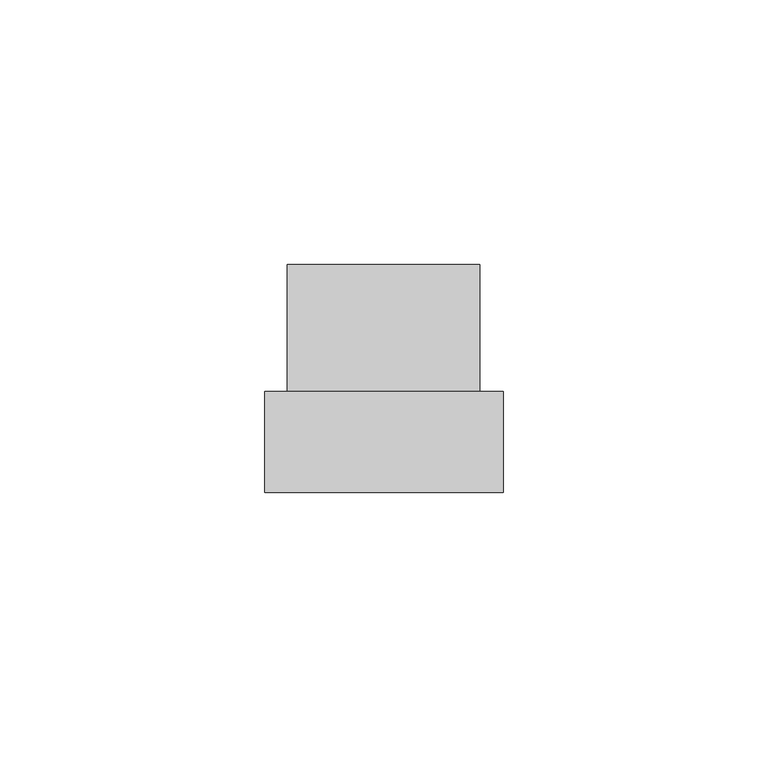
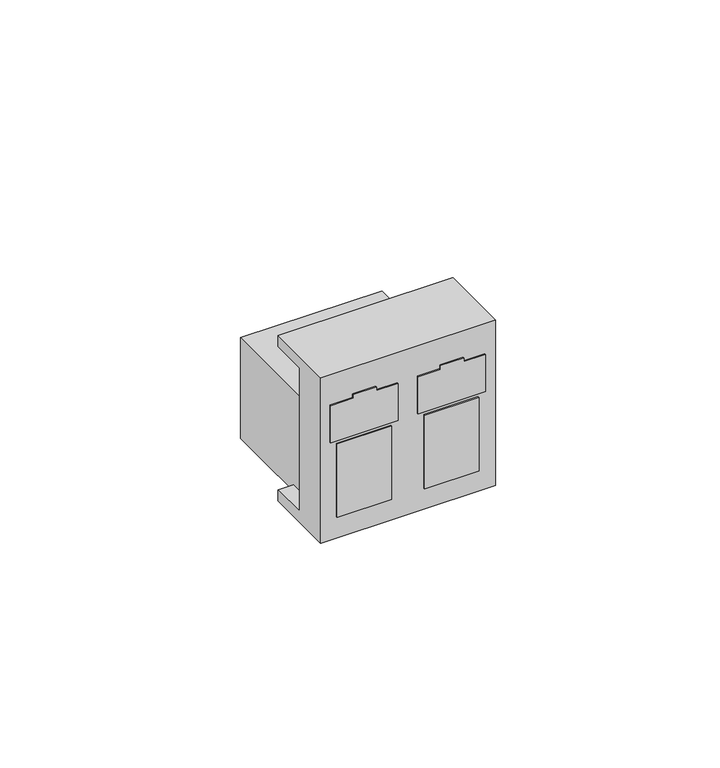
"""IFC4 building model written with IfcOpenShell, lengths in millimetres: proxy geometry."""

from ifc_helpers import new_model, si_unit, frame, origin, place, context, project, spatial, polyline, outline, extrude, faceted_brep, source, transform, mapped, element, save


def electrical_fixtures_acd001a0(model_context):
    return source(origin(), model_context, "Body", "SolidModel", [
        extrude(outline(polyline([(3.9878881, 42.4), (14.0378881, 42.4), (14.0378881, 36.9016824), (15.0378881, 36.9016824), (15.0378881, 30.9016824), (14.0378881, 30.9016824), (14.0378881, 25.0), (3.9878881, 25.0), (3.9878881, 42.4)])), frame((0.0, -7.0, 0.0), z_axis=(0.0, 1.0, 0.0), x_axis=(0.0, 0.0, 1.0)), (0.0, 0.0, 1.0), 1.0),
        extrude(outline(polyline([(40.7, -7.0), (26.7, -7.0), (26.7, -6.0), (40.7, -6.0), (40.7, -7.0)])), frame((0.0, 0.0, -17.0), z_axis=(0.0, 0.0, 1.0), x_axis=(1.0, 0.0, 0.0)), (0.0, 0.0, 1.0), 19.9878881),
        extrude(outline(polyline([(3.9878881, 19.9), (14.0378881, 19.9), (14.0378881, 14.4016824), (15.0378881, 14.4016824), (15.0378881, 8.4016824), (14.0378881, 8.4016824), (14.0378881, 2.5), (3.9878881, 2.5), (3.9878881, 19.9)])), frame((0.0, -7.0, 0.0), z_axis=(0.0, 1.0, 0.0), x_axis=(0.0, 0.0, 1.0)), (0.0, 0.0, 1.0), 1.0),
        extrude(outline(polyline([(18.2, -7.0), (4.2, -7.0), (4.2, -6.0), (18.2, -6.0), (18.2, -7.0)])), frame((0.0, 0.0, -17.0), z_axis=(0.0, 0.0, 1.0), x_axis=(1.0, 0.0, 0.0)), (0.0, 0.0, 1.0), 19.9878881),
        extrude(outline(polyline([(8.3269263, 8.0), (8.3269263, 5.9037214), (36.0, 5.9037214), (36.0, -21.5), (2.5, -21.5), (2.5, 8.0), (8.3269263, 8.0)])), frame((4.2, 0.0, 0.0), z_axis=(1.0, 0.0, 0.0), x_axis=(0.0, 1.0, 0.0)), (0.0, 0.0, 1.0), 36.4),
        faceted_brep([(45.0, 12.0, 22.5), (45.0, 12.0, 19.5), (0.0, 12.0, 19.5), (0.0, 12.0, 22.5), (45.0, 2.5, 19.5), (0.0, 2.5, 19.5), (45.0, -7.0, -22.5), (45.0, -7.0, 22.5), (0.0, -7.0, 22.5), (0.0, -7.0, -22.5), (19.9, -7.0, 14.0378881), (19.9, -7.0, 3.9878881), (2.5, -7.0, 3.9878881), (2.5, -7.0, 14.0378881), (8.4016824, -7.0, 14.0378881), (8.4016824, -7.0, 15.0378881), (14.4016824, -7.0, 15.0378881), (14.4016824, -7.0, 14.0378881), (4.2, -7.0, 2.9878881), (18.2, -7.0, 2.9878881), (18.2, -7.0, -17.0), (4.2, -7.0, -17.0), (42.4, -7.0, 14.0378881), (42.4, -7.0, 3.9878881), (25.0, -7.0, 3.9878881), (25.0, -7.0, 14.0378881), (30.9016824, -7.0, 14.0378881), (30.9016824, -7.0, 15.0378881), (36.9016824, -7.0, 15.0378881), (36.9016824, -7.0, 14.0378881), (26.7, -7.0, 2.9878881), (40.7, -7.0, 2.9878881), (40.7, -7.0, -17.0), (26.7, -7.0, -17.0), (45.0, 2.5, -19.5), (0.0, 2.5, -19.5), (45.0, 12.0, -22.5), (45.0, 12.0, -19.5), (0.0, 12.0, -19.5), (0.0, 12.0, -22.5), (19.9, -3.5, 3.9878881), (19.9, -3.5, 14.0378881), (14.4016824, -3.5, 14.0378881), (14.4016824, -3.5, 15.0378881), (8.4016824, -3.5, 15.0378881), (8.4016824, -3.5, 14.0378881), (2.5, -3.5, 14.0378881), (2.5, -3.5, 3.9878881), (18.2, -3.5, 2.9878881), (4.2, -3.5, 2.9878881), (4.2, -3.5, -17.0), (18.2, -3.5, -17.0), (17.2, -3.5, -0.481056), (17.2, -3.5, -13.481056), (11.8030281, -3.5, -13.481056), (11.8030281, -3.5, -0.481056), (14.501514, -3.5, -11.981056), (16.501514, -3.5, -11.981056), (16.501514, -3.5, -1.981056), (14.501514, -3.5, -1.981056), (17.2, 0.0, -13.481056), (17.2, 0.0, -0.481056), (11.8030281, 0.0, -0.481056), (11.8030281, 0.0, -13.481056), (16.501514, 0.0, -11.981056), (14.501514, 0.0, -11.981056), (14.501514, 0.0, -1.981056), (16.501514, 0.0, -1.981056), (42.4, -3.5, 3.9878881), (42.4, -3.5, 14.0378881), (36.9016824, -3.5, 14.0378881), (36.9016824, -3.5, 15.0378881), (30.9016824, -3.5, 15.0378881), (30.9016824, -3.5, 14.0378881), (25.0, -3.5, 14.0378881), (25.0, -3.5, 3.9878881), (40.7, -3.5, 2.9878881), (26.7, -3.5, 2.9878881), (26.7, -3.5, -17.0), (40.7, -3.5, -17.0), (39.7, -3.5, -0.481056), (39.7, -3.5, -13.481056), (34.3030281, -3.5, -13.481056), (34.3030281, -3.5, -0.481056), (37.001514, -3.5, -11.981056), (39.001514, -3.5, -11.981056), (39.001514, -3.5, -1.981056), (37.001514, -3.5, -1.981056), (39.7, 0.0, -13.481056), (39.7, 0.0, -0.481056), (34.3030281, 0.0, -0.481056), (34.3030281, 0.0, -13.481056), (39.001514, 0.0, -11.981056), (37.001514, 0.0, -11.981056), (37.001514, 0.0, -1.981056), (39.001514, 0.0, -1.981056)], [[[0, 1, 2, 3]], [[2, 1, 4, 5]], [[6, 7, 8, 9], [10, 11, 12, 13, 14, 15, 16, 17], [18, 19, 20, 21], [22, 23, 24, 25, 26, 27, 28, 29], [30, 31, 32, 33]], [[5, 4, 34, 35]], [[7, 6, 36, 37, 34, 4, 1, 0]], [[8, 7, 0, 3]], [[9, 8, 3, 2, 5, 35, 38, 39]], [[6, 9, 39, 36]], [[37, 36, 39, 38]], [[37, 38, 35, 34]], [[40, 41, 42, 43, 44, 45, 46, 47]], [[48, 49, 50, 51], [52, 53, 54, 55]], [[56, 57, 58, 59]], [[41, 40, 11, 10]], [[42, 41, 10, 17]], [[43, 42, 17, 16]], [[44, 43, 16, 15]], [[45, 44, 15, 14]], [[46, 45, 14, 13]], [[47, 46, 13, 12]], [[40, 47, 12, 11]], [[49, 48, 19, 18]], [[50, 49, 18, 21]], [[51, 50, 21, 20]], [[48, 51, 20, 19]], [[60, 61, 62, 63], [64, 65, 66, 67]], [[61, 60, 53, 52]], [[62, 61, 52, 55]], [[63, 62, 55, 54]], [[60, 63, 54, 53]], [[65, 64, 57, 56]], [[66, 65, 56, 59]], [[67, 66, 59, 58]], [[64, 67, 58, 57]], [[68, 69, 70, 71, 72, 73, 74, 75]], [[76, 77, 78, 79], [80, 81, 82, 83]], [[84, 85, 86, 87]], [[69, 68, 23, 22]], [[70, 69, 22, 29]], [[71, 70, 29, 28]], [[72, 71, 28, 27]], [[73, 72, 27, 26]], [[74, 73, 26, 25]], [[75, 74, 25, 24]], [[68, 75, 24, 23]], [[77, 76, 31, 30]], [[78, 77, 30, 33]], [[79, 78, 33, 32]], [[76, 79, 32, 31]], [[88, 89, 90, 91], [92, 93, 94, 95]], [[89, 88, 81, 80]], [[90, 89, 80, 83]], [[91, 90, 83, 82]], [[88, 91, 82, 81]], [[93, 92, 85, 84]], [[94, 93, 84, 87]], [[95, 94, 87, 86]], [[92, 95, 86, 85]]]),
    ])


if __name__ == "__main__":
    model = new_model("IFC4")
    model_context = context("Model", 3, world=origin())
    ifc_project = project(units=[si_unit("LENGTHUNIT", "METRE", prefix="MILLI")], contexts=[model_context])
    site = spatial("IfcSite", under=ifc_project)
    building = spatial("IfcBuilding", under=site)
    placement = place(None, origin())
    electrical_fixtures_shape = electrical_fixtures_acd001a0(model_context)
    element("IfcBuildingElementProxy", 1, Name="Electrical Fixtures", at=placement, inside=building, context=model_context, shape_type="MappedRepresentation", body=[
        mapped(electrical_fixtures_shape, transform((0.0, 0.0, 0.0), x_axis=(1.0, 0.0, 0.0), y_axis=(0.0, 1.0, 0.0), z_axis=(0.0, 0.0, 1.0))),
    ])
    save(model, "model.ifc")
